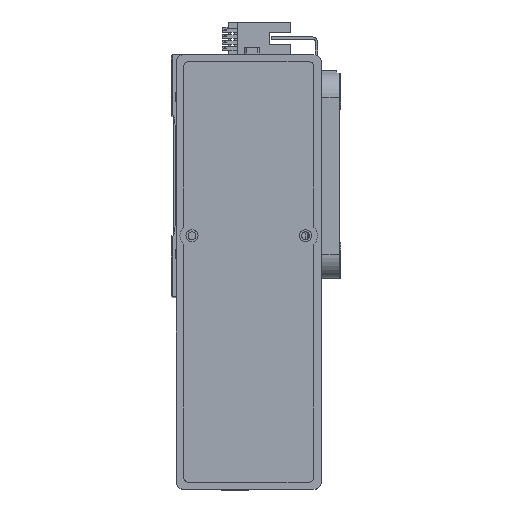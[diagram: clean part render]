
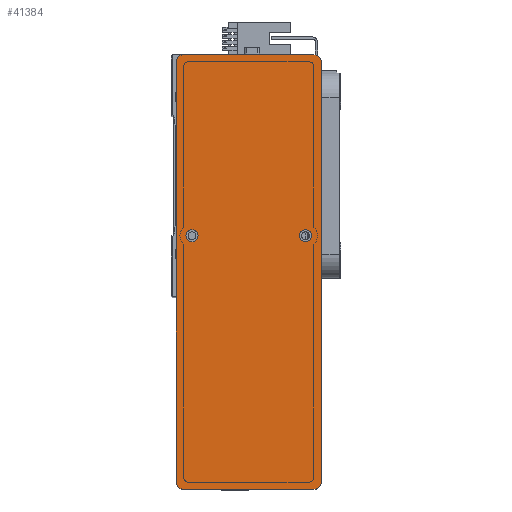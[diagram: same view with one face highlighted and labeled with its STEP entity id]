
A CAD part, top view. The second image highlights one B-rep face of the part: STEP entity #41384.
In plain terms, the highlighted planar face has unit normal (0, 0, 1) as drawn and (0, 0, -1) by its records, which use the part's own axes.
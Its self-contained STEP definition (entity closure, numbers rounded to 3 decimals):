
#30 = CIRCLE ( 'NONE', #11044, 2.5 ) ;
#282 = EDGE_CURVE ( 'NONE', #3190, #38288, #10130, .T. ) ;
#2459 = EDGE_CURVE ( 'NONE', #46324, #38288, #26334, .T. ) ;
#3190 = VERTEX_POINT ( 'NONE', #16979 ) ;
#3615 = CARTESIAN_POINT ( 'NONE',  ( 87., -27., 0. ) ) ;
#3742 = DIRECTION ( 'NONE',  ( 1., 0., 0. ) ) ;
#3987 = DIRECTION ( 'NONE',  ( 0., 0., -1. ) ) ;
#4214 = ORIENTED_EDGE ( 'NONE', *, *, #16709, .T. ) ;
#4421 = CARTESIAN_POINT ( 'NONE',  ( -15., -23.5, 0. ) ) ;
#5306 = CARTESIAN_POINT ( 'NONE',  ( -17.5, 23.5, 0. ) ) ;
#5829 = CARTESIAN_POINT ( 'NONE',  ( 90., 30., 0. ) ) ;
#5857 = CARTESIAN_POINT ( 'NONE',  ( -87., 30., 0. ) ) ;
#7289 = DIRECTION ( 'NONE',  ( 1., 0., 0. ) ) ;
#7290 = CARTESIAN_POINT ( 'NONE',  ( -87., -27., 0. ) ) ;
#7660 = CIRCLE ( 'NONE', #21274, 2.5 ) ;
#7803 = DIRECTION ( 'NONE',  ( 1., 0., 0. ) ) ;
#8208 = FACE_OUTER_BOUND ( 'NONE', #20770, .T. ) ;
#8615 = DIRECTION ( 'NONE',  ( -1., 0., 0. ) ) ;
#8862 = ORIENTED_EDGE ( 'NONE', *, *, #282, .F. ) ;
#9444 = EDGE_CURVE ( 'NONE', #15687, #19253, #10086, .T. ) ;
#9537 = FACE_BOUND ( 'NONE', #34527, .T. ) ;
#10086 = LINE ( 'NONE', #35522, #19993 ) ;
#10130 = LINE ( 'NONE', #5829, #32702 ) ;
#10144 = DIRECTION ( 'NONE',  ( 1., 0., 0. ) ) ;
#10615 = CIRCLE ( 'NONE', #18399, 3. ) ;
#10992 = CARTESIAN_POINT ( 'NONE',  ( -12.5, -23.5, 0. ) ) ;
#11009 = DIRECTION ( 'NONE',  ( 0., 0., -1. ) ) ;
#11044 = AXIS2_PLACEMENT_3D ( 'NONE', #36404, #11009, #40692 ) ;
#11445 = CARTESIAN_POINT ( 'NONE',  ( -15., 23.5, 0. ) ) ;
#11504 = DIRECTION ( 'NONE',  ( 1., 0., 0. ) ) ;
#15550 = EDGE_CURVE ( 'NONE', #3190, #32840, #20652, .T. ) ;
#15686 = CARTESIAN_POINT ( 'NONE',  ( -15., 23.5, 0. ) ) ;
#15687 = VERTEX_POINT ( 'NONE', #25707 ) ;
#15698 = DIRECTION ( 'NONE',  ( -1., 0., 0. ) ) ;
#16372 = VERTEX_POINT ( 'NONE', #5306 ) ;
#16487 = DIRECTION ( 'NONE',  ( 0., 1., 0. ) ) ;
#16709 = EDGE_CURVE ( 'NONE', #39333, #19253, #10615, .T. ) ;
#16979 = CARTESIAN_POINT ( 'NONE',  ( 87., 30., 0. ) ) ;
#17258 = ORIENTED_EDGE ( 'NONE', *, *, #45327, .F. ) ;
#18021 = PLANE ( 'NONE',  #29183 ) ;
#18399 = AXIS2_PLACEMENT_3D ( 'NONE', #3615, #33181, #7803 ) ;
#18458 = ORIENTED_EDGE ( 'NONE', *, *, #15550, .T. ) ;
#18553 = ORIENTED_EDGE ( 'NONE', *, *, #36990, .F. ) ;
#19253 = VERTEX_POINT ( 'NONE', #30384 ) ;
#19916 = DIRECTION ( 'NONE',  ( -1., 0., 0. ) ) ;
#19993 = VECTOR ( 'NONE', #10144, 1000. ) ;
#20023 = CARTESIAN_POINT ( 'NONE',  ( -90., -30., 0. ) ) ;
#20028 = VERTEX_POINT ( 'NONE', #10992 ) ;
#20492 = VERTEX_POINT ( 'NONE', #31356 ) ;
#20530 = CARTESIAN_POINT ( 'NONE',  ( 90., -30., 0. ) ) ;
#20652 = CIRCLE ( 'NONE', #40018, 3. ) ;
#20770 = EDGE_LOOP ( 'NONE', ( #30170, #4214, #21413, #26278, #17258, #48306, #8862, #18458 ) ) ;
#21274 = AXIS2_PLACEMENT_3D ( 'NONE', #4421, #34018, #8615 ) ;
#21413 = ORIENTED_EDGE ( 'NONE', *, *, #9444, .F. ) ;
#22865 = CARTESIAN_POINT ( 'NONE',  ( -90., 27., 0. ) ) ;
#25707 = CARTESIAN_POINT ( 'NONE',  ( -87., -30., 0. ) ) ;
#26278 = ORIENTED_EDGE ( 'NONE', *, *, #38502, .T. ) ;
#26334 = CIRCLE ( 'NONE', #54134, 3. ) ;
#26450 = CARTESIAN_POINT ( 'NONE',  ( 90., -27., 0. ) ) ;
#26468 = EDGE_CURVE ( 'NONE', #39333, #32840, #54590, .T. ) ;
#26820 = CARTESIAN_POINT ( 'NONE',  ( 90., 27., 0. ) ) ;
#28623 = DIRECTION ( 'NONE',  ( 0., -1., 0. ) ) ;
#29060 = DIRECTION ( 'NONE',  ( 0., 0., -1. ) ) ;
#29183 = AXIS2_PLACEMENT_3D ( 'NONE', #53705, #32646, #7289 ) ;
#29305 = CARTESIAN_POINT ( 'NONE',  ( -87., 27., 0. ) ) ;
#30062 = EDGE_LOOP ( 'NONE', ( #39535, #38283 ) ) ;
#30170 = ORIENTED_EDGE ( 'NONE', *, *, #26468, .F. ) ;
#30384 = CARTESIAN_POINT ( 'NONE',  ( 87., -30., 0. ) ) ;
#30390 = EDGE_CURVE ( 'NONE', #16372, #20492, #46584, .T. ) ;
#30801 = FACE_BOUND ( 'NONE', #30062, .T. ) ;
#31015 = DIRECTION ( 'NONE',  ( -1., 0., 0. ) ) ;
#31356 = CARTESIAN_POINT ( 'NONE',  ( -12.5, 23.5, 0. ) ) ;
#32646 = DIRECTION ( 'NONE',  ( 0., 0., 1. ) ) ;
#32702 = VECTOR ( 'NONE', #31015, 1000. ) ;
#32724 = CIRCLE ( 'NONE', #42820, 3. ) ;
#32840 = VERTEX_POINT ( 'NONE', #26820 ) ;
#33181 = DIRECTION ( 'NONE',  ( 0., 0., -1. ) ) ;
#33570 = DIRECTION ( 'NONE',  ( 1., 0., 0. ) ) ;
#34018 = DIRECTION ( 'NONE',  ( 0., 0., -1. ) ) ;
#34527 = EDGE_LOOP ( 'NONE', ( #41286, #18553 ) ) ;
#34581 = VECTOR ( 'NONE', #28623, 1000. ) ;
#34861 = EDGE_CURVE ( 'NONE', #20028, #47677, #7660, .T. ) ;
#35522 = CARTESIAN_POINT ( 'NONE',  ( 90., -30., 0. ) ) ;
#36404 = CARTESIAN_POINT ( 'NONE',  ( -15., -23.5, 0. ) ) ;
#36902 = DIRECTION ( 'NONE',  ( 0., 0., -1. ) ) ;
#36990 = EDGE_CURVE ( 'NONE', #20492, #16372, #41032, .T. ) ;
#38283 = ORIENTED_EDGE ( 'NONE', *, *, #34861, .F. ) ;
#38288 = VERTEX_POINT ( 'NONE', #5857 ) ;
#38407 = CARTESIAN_POINT ( 'NONE',  ( -90., -27., 0. ) ) ;
#38502 = EDGE_CURVE ( 'NONE', #15687, #46769, #32724, .T. ) ;
#39333 = VERTEX_POINT ( 'NONE', #26450 ) ;
#39535 = ORIENTED_EDGE ( 'NONE', *, *, #52781, .F. ) ;
#40018 = AXIS2_PLACEMENT_3D ( 'NONE', #54379, #29060, #3742 ) ;
#40692 = DIRECTION ( 'NONE',  ( -1., 0., 0. ) ) ;
#40968 = AXIS2_PLACEMENT_3D ( 'NONE', #11445, #41134, #15698 ) ;
#41032 = CIRCLE ( 'NONE', #40968, 2.5 ) ;
#41134 = DIRECTION ( 'NONE',  ( 0., 0., -1. ) ) ;
#41286 = ORIENTED_EDGE ( 'NONE', *, *, #30390, .F. ) ;
#41384 = ADVANCED_FACE ( 'NONE', ( #9537, #30801, #8208 ), #18021, .F. ) ;
#42820 = AXIS2_PLACEMENT_3D ( 'NONE', #7290, #36902, #11504 ) ;
#43386 = VECTOR ( 'NONE', #16487, 1000. ) ;
#45327 = EDGE_CURVE ( 'NONE', #46324, #46769, #47176, .T. ) ;
#45369 = DIRECTION ( 'NONE',  ( 0., 0., -1. ) ) ;
#46324 = VERTEX_POINT ( 'NONE', #22865 ) ;
#46584 = CIRCLE ( 'NONE', #50849, 2.5 ) ;
#46769 = VERTEX_POINT ( 'NONE', #38407 ) ;
#47176 = LINE ( 'NONE', #20023, #34581 ) ;
#47677 = VERTEX_POINT ( 'NONE', #49577 ) ;
#48306 = ORIENTED_EDGE ( 'NONE', *, *, #2459, .T. ) ;
#49577 = CARTESIAN_POINT ( 'NONE',  ( -17.5, -23.5, 0. ) ) ;
#50849 = AXIS2_PLACEMENT_3D ( 'NONE', #15686, #45369, #19916 ) ;
#52781 = EDGE_CURVE ( 'NONE', #47677, #20028, #30, .T. ) ;
#53705 = CARTESIAN_POINT ( 'NONE',  ( 0., 0., 0. ) ) ;
#54134 = AXIS2_PLACEMENT_3D ( 'NONE', #29305, #3987, #33570 ) ;
#54379 = CARTESIAN_POINT ( 'NONE',  ( 87., 27., 0. ) ) ;
#54590 = LINE ( 'NONE', #20530, #43386 ) ;
